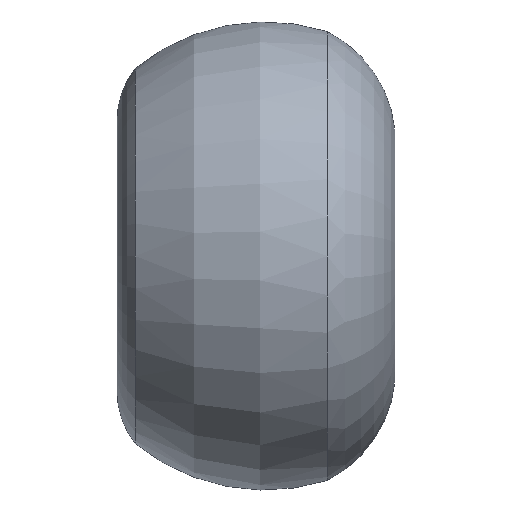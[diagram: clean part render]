
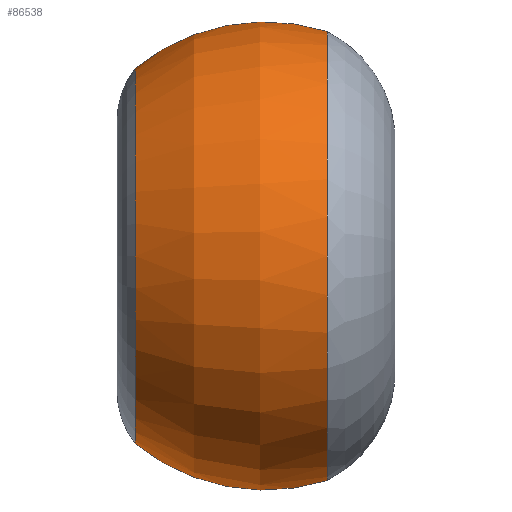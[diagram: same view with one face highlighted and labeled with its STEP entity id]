
A CAD part, left-side view. The second image highlights one B-rep face of the part: STEP entity #86538.
In plain terms, the highlighted toroidal (fillet/blend) face has major radius 400 mm and minor radius 2809.32 mm.
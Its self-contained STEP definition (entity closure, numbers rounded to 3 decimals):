
#3996 = DIRECTION ( 'NONE',  ( 0., 0., -1. ) ) ;
#3997 = DIRECTION ( 'NONE',  ( 0., -1., 0. ) ) ;
#3998 = CARTESIAN_POINT ( 'NONE',  ( 0., -102.051, 0. ) ) ;
#3999 = AXIS2_PLACEMENT_3D ( 'NONE', #3998, #3997, #3996 ) ;
#4000 = CIRCLE ( 'NONE', #3999, 3076.992 ) ;
#4344 = DIRECTION ( 'NONE',  ( 0., 0., -1. ) ) ;
#4346 = DIRECTION ( 'NONE',  ( 0., -1., 0. ) ) ;
#4348 = AXIS2_PLACEMENT_3D ( 'NONE', #4351, #4346, #4344 ) ;
#4349 = TOROIDAL_SURFACE ( 'NONE', #4348, 400., 2809.32 ) ;
#4351 = CARTESIAN_POINT ( 'NONE',  ( 0., 750., 0. ) ) ;
#4352 = FACE_OUTER_BOUND ( 'NONE', #86681, .T. ) ;
#4357 = DIRECTION ( 'NONE',  ( 0., 0., -1. ) ) ;
#4359 = DIRECTION ( 'NONE',  ( 0., -1., 0. ) ) ;
#4360 = CARTESIAN_POINT ( 'NONE',  ( 0., 2531.054, 0. ) ) ;
#4362 = AXIS2_PLACEMENT_3D ( 'NONE', #4360, #4359, #4357 ) ;
#4364 = CIRCLE ( 'NONE', #4362, 2572.585 ) ;
#23679 = VERTEX_POINT ( 'NONE', #67121 ) ;
#23680 = VERTEX_POINT ( 'NONE', #67120 ) ;
#23775 = VERTEX_POINT ( 'NONE', #120588 ) ;
#23776 = VERTEX_POINT ( 'NONE', #120586 ) ;
#23778 = EDGE_CURVE ( 'NONE', #23776, #23680, #120576, .T. ) ;
#23781 = EDGE_CURVE ( 'NONE', #23775, #23679, #120560, .T. ) ;
#67120 = CARTESIAN_POINT ( 'NONE',  ( 0., -102.051, 3076.992 ) ) ;
#67121 = CARTESIAN_POINT ( 'NONE',  ( 0., -102.051, -3076.992 ) ) ;
#86054 = ORIENTED_EDGE ( 'NONE', *, *, #23781, .T. ) ;
#86060 = ORIENTED_EDGE ( 'NONE', *, *, #86067, .F. ) ;
#86067 = EDGE_CURVE ( 'NONE', #23680, #23679, #4000, .T. ) ;
#86533 = EDGE_CURVE ( 'NONE', #23776, #23775, #4364, .T. ) ;
#86538 = ADVANCED_FACE ( 'NONE', ( #4352 ), #4349, .T. ) ;
#86681 = EDGE_LOOP ( 'NONE', ( #87486, #87503, #86054, #86060 ) ) ;
#87486 = ORIENTED_EDGE ( 'NONE', *, *, #23778, .F. ) ;
#87503 = ORIENTED_EDGE ( 'NONE', *, *, #86533, .T. ) ;
#120553 = DIRECTION ( 'NONE',  ( 0., 0., 1. ) ) ;
#120555 = DIRECTION ( 'NONE',  ( -1., 0., 0. ) ) ;
#120558 = AXIS2_PLACEMENT_3D ( 'NONE', #120578, #120555, #120553 ) ;
#120560 = CIRCLE ( 'NONE', #120558, 2809.32 ) ;
#120569 = DIRECTION ( 'NONE',  ( 0., 0., -1. ) ) ;
#120571 = DIRECTION ( 'NONE',  ( 1., 0., 0. ) ) ;
#120572 = CARTESIAN_POINT ( 'NONE',  ( 0., 750., 400. ) ) ;
#120575 = AXIS2_PLACEMENT_3D ( 'NONE', #120572, #120571, #120569 ) ;
#120576 = CIRCLE ( 'NONE', #120575, 2809.32 ) ;
#120578 = CARTESIAN_POINT ( 'NONE',  ( 0., 750., -400. ) ) ;
#120586 = CARTESIAN_POINT ( 'NONE',  ( 0., 2531.054, 2572.585 ) ) ;
#120588 = CARTESIAN_POINT ( 'NONE',  ( 0., 2531.054, -2572.585 ) ) ;
